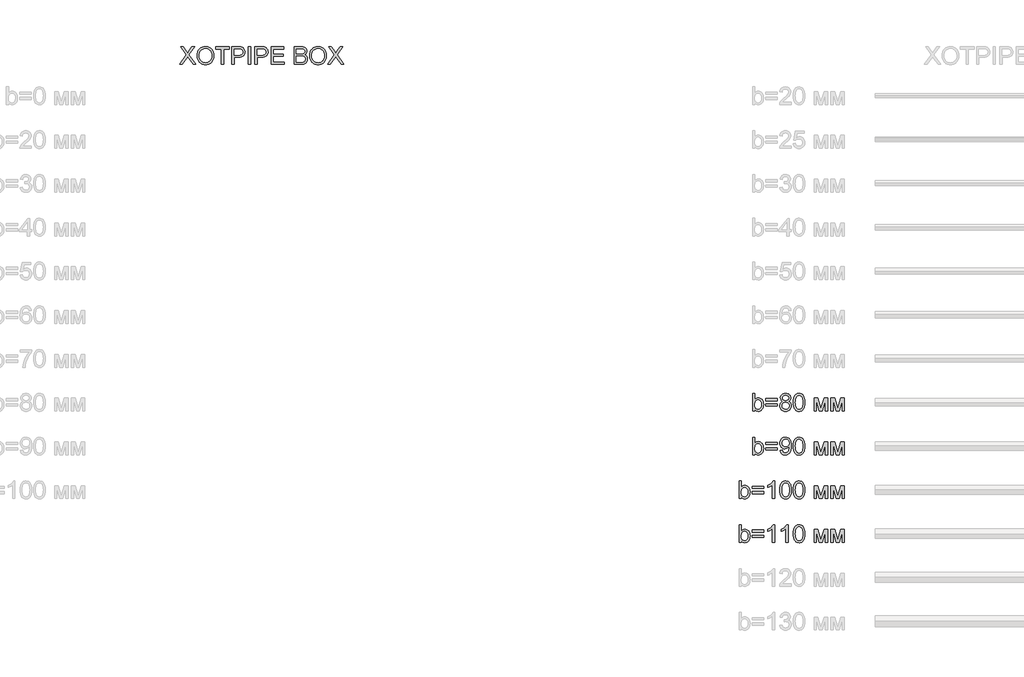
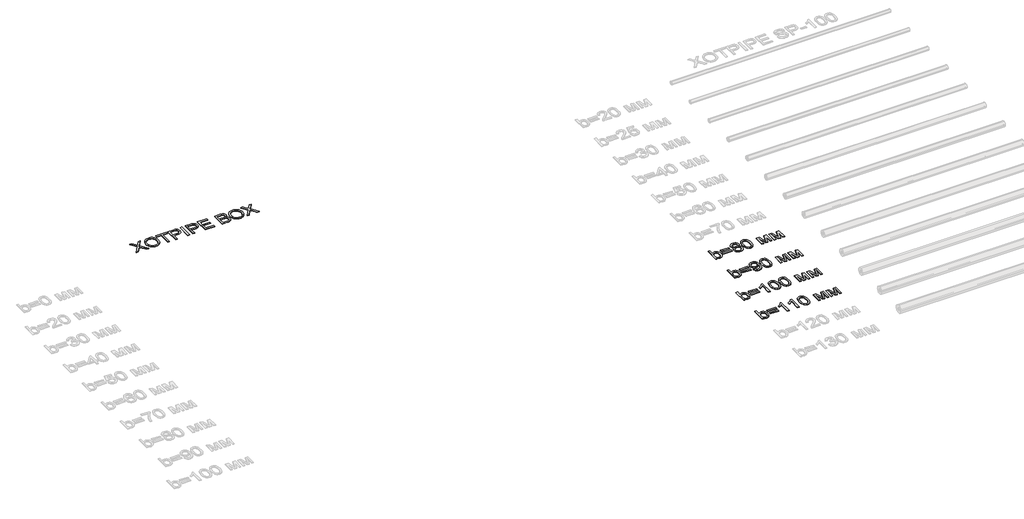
# One storey, part 72 of 86: 5 proxies.
"""IFC4 building model written with IfcOpenShell, lengths in millimetres."""

from ifc_helpers import new_model, si_unit, origin, origin_with_axes, place, context, project, spatial, polyline, outline, extrude, element, save

model = new_model("IFC4")

# Units and contexts
model_context = context("Model", 3, world=origin())
ifc_project = project(units=[si_unit("LENGTHUNIT", "METRE", prefix="MILLI")], contexts=[model_context])

# Site, building, storey
site = spatial("IfcSite", under=ifc_project)
building = spatial("IfcBuilding", under=site)
storey = spatial("IfcBuildingStorey", under=building, Name="Уровень 1", Elevation=0.0)

# Proxies
placement = place(None, origin())
element("IfcBuildingElementProxy", 1, Name="Текст модели 1", ObjectType="Текст модели 1", at=placement, inside=storey, context=model_context, shape_type="SweptSolid", body=[
    extrude(outline(polyline([(23159.6307988, 78669.2937088), (23084.2885662, 78669.2937088), (23084.2885662, 79272.0315697), (23159.6307988, 79272.0315697), (23159.6307988, 79048.5064694), (23184.4076512, 79080.3742473), (23212.3850769, 79103.1369457), (23243.563076, 79116.7945648), (23277.9416484, 79121.3471045), (23316.7531989, 79117.2452202), (23353.4310339, 79104.9395675), (23385.8782258, 79085.2026984), (23411.9978475, 79058.8071653), (23432.4704805, 79026.0104854), (23447.9767066, 78987.0701762), (23457.7439736, 78943.6049185), (23460.9997292, 78897.233393), (23457.6290105, 78843.7249568), (23447.5168541, 78796.6544555), (23430.6632602, 78756.0218892), (23407.0682288, 78721.8272577), (23378.7459136, 78694.7235517), (23347.7104688, 78675.3637617), (23313.9618943, 78663.7478877), (23277.50019, 78659.8759297), (23241.9903805, 78664.8699278), (23210.5088787, 78679.8519221), (23183.0556848, 78704.8219125), (23159.6307988, 78739.7798991), (23159.6307988, 78669.2937088)]), holes=[polyline([(23159.6307988, 78893.7017259), (23164.7811467, 78830.8674811), (23171.2190816, 78807.065516), (23180.2321905, 78788.3403224), (23198.4883345, 78765.0993774), (23219.7059286, 78748.4987024), (23243.8849727, 78738.5382973), (23271.0254669, 78735.2181623), (23293.5582391, 78737.6645776), (23314.5091188, 78745.0038234), (23333.8781058, 78757.2358997), (23351.6652003, 78774.3608066), (23366.5368299, 78796.3325588), (23377.1594225, 78823.105171), (23383.5329781, 78854.6786432), (23385.6574966, 78891.0529755), (23383.6203501, 78928.1170865), (23377.5089104, 78959.9940614), (23367.3231777, 78986.6839001), (23353.0631519, 79008.1866028), (23335.9152524, 79024.7320955), (23317.0658986, 79036.5503046), (23296.5150907, 79043.64123), (23274.2628285, 79046.0048719), (23251.7300563, 79043.5584566), (23230.7791767, 79036.2192108), (23211.4101896, 79023.9871344), (23193.6230951, 79006.8622276), (23178.7514655, 78985.1112046), (23168.1288729, 78959.00078), (23161.7553173, 78928.5309538), (23159.6307988, 78893.7017259)])]), origin_with_axes(), (0.0, 0.0, 1.0), 20.0),
    extrude(outline(polyline([(23931.8886831, 79017.7515346), (23536.3419619, 79017.7515346), (23536.3419619, 79093.0937672), (23931.8886831, 79093.0937672), (23931.8886831, 79017.7515346)])), origin_with_axes(), (0.0, 0.0, 1.0), 20.0),
    extrude(outline(polyline([(23931.8886831, 78838.8137322), (23536.3419619, 78838.8137322), (23536.3419619, 78914.1559648), (23931.8886831, 78914.1559648), (23931.8886831, 78838.8137322)])), origin_with_axes(), (0.0, 0.0, 1.0), 20.0),
    extrude(outline(polyline([(24126.4246821, 79001.2704212), (24086.0864213, 79021.136049), (24070.4284439, 79033.7176132), (24057.7779018, 79048.065011), (24041.0576651, 79081.5054844), (24035.4842529, 79120.9056461), (24038.5192794, 79151.6329897), (24047.6243588, 79179.8035535), (24062.7994911, 79205.4173374), (24084.0446763, 79228.4743415), (24110.3390419, 79247.5306288), (24140.6617153, 79261.1422626), (24175.0126966, 79269.3092429), (24213.3919858, 79272.0315697), (24251.9552159, 79269.2448636), (24286.5637146, 79260.8847452), (24317.2174819, 79246.9512147), (24343.9165177, 79227.4442719), (24365.547979, 79203.9366124), (24380.9990228, 79178.0009317), (24390.2696491, 79149.6372299), (24393.3598578, 79118.8455069), (24387.860022, 79080.7145381), (24371.3605145, 79047.8442818), (24358.9398986, 79033.593453), (24343.6773944, 79021.0808667), (24304.6267206, 79001.2704212), (24329.3897774, 78990.7352006), (24350.9982461, 78977.3764857), (24369.4521267, 78961.1942764), (24384.7514191, 78942.1885728), (24396.7581677, 78920.7824392), (24405.3344168, 78897.3989399), (24410.4801662, 78872.0380749), (24412.195416, 78844.6998441), (24408.7925075, 78807.1206983), (24398.5837822, 78772.6685494), (24381.5692399, 78741.3433976), (24357.7488807, 78713.1452426), (24328.3735034, 78689.8399182), (24294.6939067, 78673.1932579), (24256.7100907, 78663.2052618), (24214.4220554, 78659.8759297), (24172.13402, 78663.2190574), (24134.150204, 78673.2484402), (24100.4706074, 78689.9640784), (24071.09523, 78713.3659718), (24047.2748709, 78741.7618633), (24030.2603286, 78773.4594957), (24020.0516032, 78808.458869), (24016.6486948, 78846.7599833), (24018.4329224, 78875.3444143), (24023.7856055, 78901.5008242), (24032.7067438, 78925.2292128), (24045.1963376, 78946.5295804), (24060.9784752, 78965.0156506), (24079.7772451, 78980.3011475), (24101.5926474, 78992.3860711), (24126.4246821, 79001.2704212)]), holes=[polyline([(24110.8264855, 79118.6983541), (24112.4957501, 79101.4262944), (24117.5035437, 79085.8097037), (24125.8498665, 79071.848582), (24137.5347184, 79059.5429293), (24152.4109466, 79049.4997508), (24170.3313982, 79042.3260519), (24191.2960734, 79038.0218326), (24215.3049722, 79036.5870928), (24238.7206611, 79038.0126355), (24259.2300824, 79042.2892637), (24276.8332358, 79049.4169774), (24291.5301216, 79059.3957765), (24303.1184044, 79071.4439118), (24311.3957493, 79084.7796342), (24316.3621562, 79099.4029435), (24318.0176252, 79115.3138398), (24316.3069739, 79131.8455369), (24311.1750201, 79147.0068736), (24302.6217637, 79160.7978499), (24290.6472048, 79173.2184658), (24275.6192253, 79183.486972), (24257.9057072, 79190.8216193), (24237.5066506, 79195.2224076), (24214.4220554, 79196.6893371), (24191.1581177, 79195.2545973), (24170.662492, 79190.950378), (24152.9351784, 79183.7766791), (24137.9761768, 79173.7335006), (24126.0981868, 79161.6853652), (24117.6139083, 79148.4967957), (24112.5233412, 79134.167792), (24110.8264855, 79118.6983541)]), polyline([(24091.9909274, 78849.4087336), (24095.1363184, 78820.5851793), (24104.5724916, 78792.68133), (24121.9917041, 78768.345936), (24149.086213, 78750.2277477), (24181.533405, 78738.9705587), (24215.0106666, 78735.2181623), (24242.2523283, 78737.1909295), (24266.2934167, 78743.1092311), (24287.1339317, 78752.9730671), (24304.7738734, 78766.7824375), (24318.8085715, 78783.6360314), (24328.8333559, 78802.632538), (24334.8482265, 78823.7719571), (24336.8531834, 78847.0542889), (24334.7838471, 78870.7091012), (24328.5758385, 78892.2301979), (24318.2291574, 78911.617579), (24303.7438038, 78928.8712446), (24285.6256155, 78943.0347014), (24264.3804303, 78953.1514563), (24240.0082481, 78959.2215092), (24212.509069, 78961.2448602), (24185.6674789, 78959.2491003), (24161.9436888, 78953.2618209), (24141.3376985, 78943.2830218), (24123.8495082, 78929.312703), (24109.9113791, 78912.344146), (24099.9555726, 78893.3706321), (24093.9820887, 78872.3921613), (24091.9909274, 78849.4087336)])]), origin_with_axes(), (0.0, 0.0, 1.0), 20.0),
    extrude(outline(polyline([(24478.1198695, 78965.8065969), (24483.6564935, 79062.2836501), (24490.5772736, 79103.1967265), (24500.2663656, 79139.2261694), (24512.682383, 79170.6662845), (24527.7839389, 79197.8113772), (24545.5710333, 79220.6614476), (24566.0436664, 79239.2164957), (24589.2708158, 79253.5730906), (24615.3214596, 79263.8278012), (24644.1955977, 79269.9806276), (24675.8932301, 79272.0315697), (24722.3199379, 79267.1755274), (24763.8906034, 79252.6074004), (24798.6554519, 79228.8974058), (24824.664709, 79196.6157607), (24844.3096075, 79156.0383766), (24859.9813805, 79107.4411651), (24870.2452882, 79045.7289604), (24873.6665907, 78965.8065969), (24868.185149, 78869.8813667), (24861.3333468, 78829.106246), (24851.7408238, 78793.1227884), (24839.4213755, 78761.6688778), (24824.3887975, 78734.4823983), (24806.6430897, 78711.56335), (24786.1842523, 78692.9117329), (24762.9295116, 78678.458569), (24736.7960944, 78668.1348805), (24707.7840006, 78661.9406674), (24675.8932301, 78659.8759297), (24634.3961411, 78663.4627792), (24597.6079415, 78674.2233275), (24565.5286316, 78692.1575748), (24538.1582111, 78717.265521), (24511.8914367, 78762.6529621), (24493.1294549, 78819.2056218), (24481.8722659, 78886.9235001), (24478.1198695, 78965.8065969)]), holes=[polyline([(24553.4621021, 78965.9537497), (24555.6693941, 78900.456959), (24562.29127, 78847.440565), (24573.3277299, 78806.9045676), (24588.7787737, 78778.848967), (24607.467179, 78759.7604899), (24628.2157235, 78746.1258635), (24651.0244072, 78737.9450876), (24675.8932301, 78735.2181623), (24700.762053, 78737.9542847), (24723.5707367, 78746.1626517), (24744.3192812, 78759.8432634), (24763.0076866, 78778.9961198), (24778.4587304, 78807.0977057), (24789.4951902, 78847.624506), (24796.1170661, 78900.5765206), (24798.3243581, 78965.9537497), (24796.1906425, 79029.7168965), (24789.7894958, 79081.79979), (24779.120918, 79122.2024301), (24764.184909, 79150.9248169), (24745.8092033, 79170.9467945), (24724.8215355, 79185.248207), (24701.2219055, 79193.8290546), (24675.0103133, 79196.6893371), (24650.2702492, 79194.1693454), (24627.8478415, 79186.6093704), (24607.7430905, 79174.0094121), (24589.955996, 79156.3694704), (24573.9899175, 79125.0995008), (24562.5855756, 79082.9402242), (24555.7429705, 79029.8916405), (24553.4621021, 78965.9537497)])]), origin_with_axes(), (0.0, 0.0, 1.0), 20.0),
    extrude(outline(polyline([(25193.8710793, 79111.9293254), (25323.5126944, 79111.9293254), (25423.4294443, 78757.5853876), (25531.1452925, 79111.9293254), (25655.3422541, 79111.9293254), (25655.3422541, 78669.2937088), (25580.0000215, 78669.2937088), (25580.0000215, 79025.6977857), (25471.6955621, 78669.2937088), (25372.8088818, 78669.2937088), (25269.2133119, 79042.7675103), (25269.2133119, 78669.2937088), (25193.8710793, 78669.2937088), (25193.8710793, 79111.9293254)])), origin_with_axes(), (0.0, 0.0, 1.0), 20.0),
    extrude(outline(polyline([(25768.355603, 79111.9293254), (25897.9972181, 79111.9293254), (25997.913968, 78757.5853876), (26105.6298162, 79111.9293254), (26229.8267777, 79111.9293254), (26229.8267777, 78669.2937088), (26154.4845451, 78669.2937088), (26154.4845451, 79025.6977857), (26046.1800857, 78669.2937088), (25947.2934054, 78669.2937088), (25843.6978356, 79042.7675103), (25843.6978356, 78669.2937088), (25768.355603, 78669.2937088), (25768.355603, 79111.9293254)])), origin_with_axes(), (0.0, 0.0, 1.0), 20.0),
])
element("IfcBuildingElementProxy", 2, Name="Текст модели 1", ObjectType="Текст модели 1", at=placement, inside=storey, context=model_context, shape_type="SweptSolid", body=[
    extrude(outline(polyline([(23159.6307988, 77169.2937088), (23084.2885662, 77169.2937088), (23084.2885662, 77772.0315697), (23159.6307988, 77772.0315697), (23159.6307988, 77548.5064694), (23184.4076512, 77580.3742473), (23212.3850769, 77603.1369457), (23243.563076, 77616.7945648), (23277.9416484, 77621.3471045), (23316.7531989, 77617.2452202), (23353.4310339, 77604.9395675), (23385.8782258, 77585.2026984), (23411.9978475, 77558.8071653), (23432.4704805, 77526.0104854), (23447.9767066, 77487.0701762), (23457.7439736, 77443.6049185), (23460.9997292, 77397.233393), (23457.6290105, 77343.7249568), (23447.5168541, 77296.6544555), (23430.6632602, 77256.0218892), (23407.0682288, 77221.8272577), (23378.7459136, 77194.7235517), (23347.7104688, 77175.3637617), (23313.9618943, 77163.7478877), (23277.50019, 77159.8759297), (23241.9903805, 77164.8699278), (23210.5088787, 77179.8519221), (23183.0556848, 77204.8219125), (23159.6307988, 77239.7798991), (23159.6307988, 77169.2937088)]), holes=[polyline([(23159.6307988, 77393.7017259), (23164.7811467, 77330.8674811), (23171.2190816, 77307.065516), (23180.2321905, 77288.3403224), (23198.4883345, 77265.0993774), (23219.7059286, 77248.4987024), (23243.8849727, 77238.5382973), (23271.0254669, 77235.2181623), (23293.5582391, 77237.6645776), (23314.5091188, 77245.0038234), (23333.8781058, 77257.2358997), (23351.6652003, 77274.3608066), (23366.5368299, 77296.3325588), (23377.1594225, 77323.105171), (23383.5329781, 77354.6786432), (23385.6574966, 77391.0529755), (23383.6203501, 77428.1170865), (23377.5089104, 77459.9940614), (23367.3231777, 77486.6839001), (23353.0631519, 77508.1866028), (23335.9152524, 77524.7320955), (23317.0658986, 77536.5503046), (23296.5150907, 77543.64123), (23274.2628285, 77546.0048719), (23251.7300563, 77543.5584566), (23230.7791767, 77536.2192108), (23211.4101896, 77523.9871344), (23193.6230951, 77506.8622276), (23178.7514655, 77485.1112046), (23168.1288729, 77459.00078), (23161.7553173, 77428.5309538), (23159.6307988, 77393.7017259)])]), origin_with_axes(), (0.0, 0.0, 1.0), 20.0),
    extrude(outline(polyline([(23931.8886831, 77517.7515346), (23536.3419619, 77517.7515346), (23536.3419619, 77593.0937672), (23931.8886831, 77593.0937672), (23931.8886831, 77517.7515346)])), origin_with_axes(), (0.0, 0.0, 1.0), 20.0),
    extrude(outline(polyline([(23931.8886831, 77338.8137322), (23536.3419619, 77338.8137322), (23536.3419619, 77414.1559648), (23931.8886831, 77414.1559648), (23931.8886831, 77338.8137322)])), origin_with_axes(), (0.0, 0.0, 1.0), 20.0),
    extrude(outline(polyline([(24026.0664738, 77319.978174), (24101.4087064, 77329.3959531), (24114.2845763, 77286.6296712), (24123.7575377, 77270.3646884), (24135.25385, 77257.5118112), (24148.6447546, 77247.7583398), (24163.8014928, 77240.7915746), (24199.41247, 77235.2181623), (24231.3630212, 77238.8050118), (24260.4073048, 77249.5655601), (24284.5403636, 77266.322585), (24301.757241, 77287.898864), (24314.7986577, 77316.2625659), (24326.4053347, 77353.3818592), (24334.572315, 77395.9825942), (24337.2946418, 77440.7906212), (24336.8531834, 77455.505901), (24310.7519558, 77423.6473203), (24276.5941126, 77398.4106154), (24236.844463, 77381.9662902), (24193.9678164, 77376.4848485), (24158.1774968, 77379.8325746), (24125.2658538, 77389.8757531), (24095.2328875, 77406.6143839), (24068.0785977, 77430.048467), (24045.5780152, 77458.9547948), (24029.5061705, 77492.1101596), (24019.8630637, 77529.5145614), (24016.6486948, 77571.1680003), (24020.0194135, 77614.2101938), (24030.1315699, 77652.8378033), (24046.9851638, 77687.0508288), (24070.5801953, 77716.8492704), (24099.2519983, 77740.9915264), (24131.3359068, 77758.2359949), (24166.8319208, 77768.582676), (24205.7400403, 77772.0315697), (24234.4670256, 77770.063401), (24261.934015, 77764.158895), (24288.1410087, 77754.3180516), (24313.0880065, 77740.5408709), (24335.9426754, 77723.1216584), (24355.8726825, 77702.3547198), (24372.8780277, 77678.240055), (24386.9587111, 77650.7776641), (24397.9997695, 77618.3856544), (24405.8862398, 77579.4821334), (24410.6181219, 77534.0671011), (24412.195416, 77482.1405575), (24410.6227204, 77427.6066502), (24405.9046339, 77378.9312638), (24398.0411562, 77336.114398), (24387.0322875, 77299.1560531), (24372.9194145, 77267.154918), (24355.7439238, 77239.209682), (24335.5058156, 77215.3203449), (24312.2050897, 77195.4869069), (24286.3107957, 77179.9071044), (24258.2919833, 77168.778674), (24228.1486523, 77162.1016158), (24195.8808028, 77159.8759297), (24162.0448563, 77162.5016875), (24131.4646655, 77170.3789607), (24104.1402303, 77183.5077494), (24080.0715507, 77201.8880536), (24059.8656321, 77225.0232325), (24044.1294798, 77252.4166456), (24032.8630937, 77284.0682928), (24026.0664738, 77319.978174)]), holes=[polyline([(24336.8531834, 77572.9338339), (24334.8206353, 77599.9363724), (24328.7229913, 77623.9958548), (24318.5602511, 77645.1122814), (24304.332415, 77663.2856519), (24286.7384586, 77677.8997642), (24266.4773577, 77688.3384158), (24243.5491123, 77694.6016068), (24217.9537225, 77696.6893371), (24191.5397953, 77694.4406584), (24167.6274656, 77687.6946223), (24146.2167335, 77676.4512288), (24127.3075989, 77660.710478), (24111.8565551, 77641.3920747), (24100.8200953, 77619.415724), (24094.1982193, 77594.7814259), (24091.9909274, 77567.4891804), (24094.0786577, 77543.0112321), (24100.3418487, 77520.9337139), (24110.7805003, 77501.2566257), (24125.3946125, 77483.9799675), (24143.5771801, 77469.9130797), (24164.7211978, 77459.8653027), (24188.8266656, 77453.8366365), (24215.8935833, 77451.8270811), (24241.1348867, 77453.8366365), (24264.0309424, 77459.8653027), (24284.5817504, 77469.9130797), (24302.7873106, 77483.9799675), (24317.6911299, 77501.5969165), (24328.3367152, 77522.2948773), (24334.7240663, 77546.0738497), (24336.8531834, 77572.9338339)])]), origin_with_axes(), (0.0, 0.0, 1.0), 20.0),
    extrude(outline(polyline([(24478.1198695, 77465.8065969), (24483.6564935, 77562.2836501), (24490.5772736, 77603.1967265), (24500.2663656, 77639.2261694), (24512.682383, 77670.6662845), (24527.7839389, 77697.8113772), (24545.5710333, 77720.6614476), (24566.0436664, 77739.2164957), (24589.2708158, 77753.5730906), (24615.3214596, 77763.8278012), (24644.1955977, 77769.9806276), (24675.8932301, 77772.0315697), (24722.3199379, 77767.1755274), (24763.8906034, 77752.6074004), (24798.6554519, 77728.8974058), (24824.664709, 77696.6157607), (24844.3096075, 77656.0383766), (24859.9813805, 77607.4411651), (24870.2452882, 77545.7289604), (24873.6665907, 77465.8065969), (24868.185149, 77369.8813667), (24861.3333468, 77329.106246), (24851.7408238, 77293.1227884), (24839.4213755, 77261.6688778), (24824.3887975, 77234.4823983), (24806.6430897, 77211.56335), (24786.1842523, 77192.9117329), (24762.9295116, 77178.458569), (24736.7960944, 77168.1348805), (24707.7840006, 77161.9406674), (24675.8932301, 77159.8759297), (24634.3961411, 77163.4627792), (24597.6079415, 77174.2233275), (24565.5286316, 77192.1575748), (24538.1582111, 77217.265521), (24511.8914367, 77262.6529621), (24493.1294549, 77319.2056218), (24481.8722659, 77386.9235001), (24478.1198695, 77465.8065969)]), holes=[polyline([(24553.4621021, 77465.9537497), (24555.6693941, 77400.456959), (24562.29127, 77347.440565), (24573.3277299, 77306.9045676), (24588.7787737, 77278.848967), (24607.467179, 77259.7604899), (24628.2157235, 77246.1258635), (24651.0244072, 77237.9450876), (24675.8932301, 77235.2181623), (24700.762053, 77237.9542847), (24723.5707367, 77246.1626517), (24744.3192812, 77259.8432634), (24763.0076866, 77278.9961198), (24778.4587304, 77307.0977057), (24789.4951902, 77347.624506), (24796.1170661, 77400.5765206), (24798.3243581, 77465.9537497), (24796.1906425, 77529.7168965), (24789.7894958, 77581.79979), (24779.120918, 77622.2024301), (24764.184909, 77650.9248169), (24745.8092033, 77670.9467945), (24724.8215355, 77685.248207), (24701.2219055, 77693.8290546), (24675.0103133, 77696.6893371), (24650.2702492, 77694.1693454), (24627.8478415, 77686.6093704), (24607.7430905, 77674.0094121), (24589.955996, 77656.3694704), (24573.9899175, 77625.0995008), (24562.5855756, 77582.9402242), (24555.7429705, 77529.8916405), (24553.4621021, 77465.9537497)])]), origin_with_axes(), (0.0, 0.0, 1.0), 20.0),
    extrude(outline(polyline([(25193.8710793, 77611.9293254), (25323.5126944, 77611.9293254), (25423.4294443, 77257.5853876), (25531.1452925, 77611.9293254), (25655.3422541, 77611.9293254), (25655.3422541, 77169.2937088), (25580.0000215, 77169.2937088), (25580.0000215, 77525.6977857), (25471.6955621, 77169.2937088), (25372.8088818, 77169.2937088), (25269.2133119, 77542.7675103), (25269.2133119, 77169.2937088), (25193.8710793, 77169.2937088), (25193.8710793, 77611.9293254)])), origin_with_axes(), (0.0, 0.0, 1.0), 20.0),
    extrude(outline(polyline([(25768.355603, 77611.9293254), (25897.9972181, 77611.9293254), (25997.913968, 77257.5853876), (26105.6298162, 77611.9293254), (26229.8267777, 77611.9293254), (26229.8267777, 77169.2937088), (26154.4845451, 77169.2937088), (26154.4845451, 77525.6977857), (26046.1800857, 77169.2937088), (25947.2934054, 77169.2937088), (25843.6978356, 77542.7675103), (25843.6978356, 77169.2937088), (25768.355603, 77169.2937088), (25768.355603, 77611.9293254)])), origin_with_axes(), (0.0, 0.0, 1.0), 20.0),
])
element("IfcBuildingElementProxy", 3, Name="Текст модели 1", ObjectType="Текст модели 1", at=placement, inside=storey, context=model_context, shape_type="SweptSolid", body=[
    extrude(outline(polyline([(22698.159624, 75669.2937088), (22622.8173914, 75669.2937088), (22622.8173914, 76272.0315697), (22698.159624, 76272.0315697), (22698.159624, 76048.5064694), (22722.9364764, 76080.3742473), (22750.9139022, 76103.1369457), (22782.0919012, 76116.7945648), (22816.4704737, 76121.3471045), (22855.2820242, 76117.2452202), (22891.9598591, 76104.9395675), (22924.4070511, 76085.2026984), (22950.5266727, 76058.8071653), (22970.9993058, 76026.0104854), (22986.5055319, 75987.0701762), (22996.2727988, 75943.6049185), (22999.5285545, 75897.233393), (22996.1578357, 75843.7249568), (22986.0456794, 75796.6544555), (22969.1920855, 75756.0218892), (22945.597054, 75721.8272577), (22917.2747389, 75694.7235517), (22886.2392941, 75675.3637617), (22852.4907195, 75663.7478877), (22816.0290153, 75659.8759297), (22780.5192057, 75664.8699278), (22749.037704, 75679.8519221), (22721.5845101, 75704.8219125), (22698.159624, 75739.7798991), (22698.159624, 75669.2937088)]), holes=[polyline([(22698.159624, 75893.7017259), (22703.309972, 75830.8674811), (22709.7479069, 75807.065516), (22718.7610158, 75788.3403224), (22737.0171598, 75765.0993774), (22758.2347539, 75748.4987024), (22782.413798, 75738.5382973), (22809.5542922, 75735.2181623), (22832.0870644, 75737.6645776), (22853.037944, 75745.0038234), (22872.4069311, 75757.2358997), (22890.1940255, 75774.3608066), (22905.0656552, 75796.3325588), (22915.6882478, 75823.105171), (22922.0618034, 75854.6786432), (22924.1863219, 75891.0529755), (22922.1491753, 75928.1170865), (22916.0377357, 75959.9940614), (22905.8520029, 75986.6839001), (22891.5919771, 76008.1866028), (22874.4440776, 76024.7320955), (22855.5947239, 76036.5503046), (22835.0439159, 76043.64123), (22812.7916537, 76046.0048719), (22790.2588815, 76043.5584566), (22769.3080019, 76036.2192108), (22749.9390149, 76023.9871344), (22732.1519204, 76006.8622276), (22717.2802907, 75985.1112046), (22706.6576981, 75959.00078), (22700.2841426, 75928.5309538), (22698.159624, 75893.7017259)])]), origin_with_axes(), (0.0, 0.0, 1.0), 20.0),
    extrude(outline(polyline([(23470.4175083, 76017.7515346), (23074.8707871, 76017.7515346), (23074.8707871, 76093.0937672), (23470.4175083, 76093.0937672), (23470.4175083, 76017.7515346)])), origin_with_axes(), (0.0, 0.0, 1.0), 20.0),
    extrude(outline(polyline([(23470.4175083, 75838.8137322), (23074.8707871, 75838.8137322), (23074.8707871, 75914.1559648), (23470.4175083, 75914.1559648), (23470.4175083, 75838.8137322)])), origin_with_axes(), (0.0, 0.0, 1.0), 20.0),
    extrude(outline(polyline([(23837.7108923, 75669.2937088), (23762.3686597, 75669.2937088), (23762.3686597, 76139.0054402), (23730.9147491, 76113.5664003), (23690.9995526, 76088.1641485), (23649.0977934, 76065.9624701), (23611.6841945, 76050.1251502), (23611.6841945, 76121.3471045), (23670.8580134, 76153.5367791), (23722.1223694, 76191.8332947), (23762.5342066, 76232.5578316), (23789.1504689, 76272.0315697), (23837.7108923, 76272.0315697), (23837.7108923, 75669.2937088)])), origin_with_axes(), (0.0, 0.0, 1.0), 20.0),
    extrude(outline(polyline([(24016.6486948, 75965.8065969), (24022.1853188, 76062.2836501), (24029.1060988, 76103.1967265), (24038.7951909, 76139.2261694), (24051.2112082, 76170.6662845), (24066.3127641, 76197.8113772), (24084.0998586, 76220.6614476), (24104.5724916, 76239.2164957), (24127.7996411, 76253.5730906), (24153.8502849, 76263.8278012), (24182.724423, 76269.9806276), (24214.4220554, 76272.0315697), (24260.8487632, 76267.1755274), (24302.4194286, 76252.6074004), (24337.1842772, 76228.8974058), (24363.1935342, 76196.6157607), (24382.8384328, 76156.0383766), (24398.5102058, 76107.4411651), (24408.7741134, 76045.7289604), (24412.195416, 75965.8065969), (24406.7139742, 75869.8813667), (24399.8621721, 75829.106246), (24390.2696491, 75793.1227884), (24377.9502007, 75761.6688778), (24362.9176227, 75734.4823983), (24345.171915, 75711.56335), (24324.7130775, 75692.9117329), (24301.4583369, 75678.458569), (24275.3249197, 75668.1348805), (24246.3128258, 75661.9406674), (24214.4220554, 75659.8759297), (24172.9249663, 75663.4627792), (24136.1367668, 75674.2233275), (24104.0574568, 75692.1575748), (24076.6870364, 75717.265521), (24050.4202619, 75762.6529621), (24031.6582802, 75819.2056218), (24020.4010911, 75886.9235001), (24016.6486948, 75965.8065969)]), holes=[polyline([(24091.9909274, 75965.9537497), (24094.1982193, 75900.456959), (24100.8200953, 75847.440565), (24111.8565551, 75806.9045676), (24127.3075989, 75778.848967), (24145.9960043, 75759.7604899), (24166.7445488, 75746.1258635), (24189.5532325, 75737.9450876), (24214.4220554, 75735.2181623), (24239.2908782, 75737.9542847), (24262.0995619, 75746.1626517), (24282.8481065, 75759.8432634), (24301.5365118, 75778.9961198), (24316.9875556, 75807.0977057), (24328.0240155, 75847.624506), (24334.6458914, 75900.5765206), (24336.8531834, 75965.9537497), (24334.7194678, 76029.7168965), (24328.3183211, 76081.79979), (24317.6497432, 76122.2024301), (24302.7137342, 76150.9248169), (24284.3380285, 76170.9467945), (24263.3503607, 76185.248207), (24239.7507307, 76193.8290546), (24213.5391386, 76196.6893371), (24188.7990744, 76194.1693454), (24166.3766668, 76186.6093704), (24146.2719158, 76174.0094121), (24128.4848213, 76156.3694704), (24112.5187427, 76125.0995008), (24101.1144009, 76082.9402242), (24094.2717957, 76029.8916405), (24091.9909274, 75965.9537497)])]), origin_with_axes(), (0.0, 0.0, 1.0), 20.0),
    extrude(outline(polyline([(24478.1198695, 75965.8065969), (24483.6564935, 76062.2836501), (24490.5772736, 76103.1967265), (24500.2663656, 76139.2261694), (24512.682383, 76170.6662845), (24527.7839389, 76197.8113772), (24545.5710333, 76220.6614476), (24566.0436664, 76239.2164957), (24589.2708158, 76253.5730906), (24615.3214596, 76263.8278012), (24644.1955977, 76269.9806276), (24675.8932301, 76272.0315697), (24722.3199379, 76267.1755274), (24763.8906034, 76252.6074004), (24798.6554519, 76228.8974058), (24824.664709, 76196.6157607), (24844.3096075, 76156.0383766), (24859.9813805, 76107.4411651), (24870.2452882, 76045.7289604), (24873.6665907, 75965.8065969), (24868.185149, 75869.8813667), (24861.3333468, 75829.106246), (24851.7408238, 75793.1227884), (24839.4213755, 75761.6688778), (24824.3887975, 75734.4823983), (24806.6430897, 75711.56335), (24786.1842523, 75692.9117329), (24762.9295116, 75678.458569), (24736.7960944, 75668.1348805), (24707.7840006, 75661.9406674), (24675.8932301, 75659.8759297), (24634.3961411, 75663.4627792), (24597.6079415, 75674.2233275), (24565.5286316, 75692.1575748), (24538.1582111, 75717.265521), (24511.8914367, 75762.6529621), (24493.1294549, 75819.2056218), (24481.8722659, 75886.9235001), (24478.1198695, 75965.8065969)]), holes=[polyline([(24553.4621021, 75965.9537497), (24555.6693941, 75900.456959), (24562.29127, 75847.440565), (24573.3277299, 75806.9045676), (24588.7787737, 75778.848967), (24607.467179, 75759.7604899), (24628.2157235, 75746.1258635), (24651.0244072, 75737.9450876), (24675.8932301, 75735.2181623), (24700.762053, 75737.9542847), (24723.5707367, 75746.1626517), (24744.3192812, 75759.8432634), (24763.0076866, 75778.9961198), (24778.4587304, 75807.0977057), (24789.4951902, 75847.624506), (24796.1170661, 75900.5765206), (24798.3243581, 75965.9537497), (24796.1906425, 76029.7168965), (24789.7894958, 76081.79979), (24779.120918, 76122.2024301), (24764.184909, 76150.9248169), (24745.8092033, 76170.9467945), (24724.8215355, 76185.248207), (24701.2219055, 76193.8290546), (24675.0103133, 76196.6893371), (24650.2702492, 76194.1693454), (24627.8478415, 76186.6093704), (24607.7430905, 76174.0094121), (24589.955996, 76156.3694704), (24573.9899175, 76125.0995008), (24562.5855756, 76082.9402242), (24555.7429705, 76029.8916405), (24553.4621021, 75965.9537497)])]), origin_with_axes(), (0.0, 0.0, 1.0), 20.0),
    extrude(outline(polyline([(25193.8710793, 76111.9293254), (25323.5126944, 76111.9293254), (25423.4294443, 75757.5853876), (25531.1452925, 76111.9293254), (25655.3422541, 76111.9293254), (25655.3422541, 75669.2937088), (25580.0000215, 75669.2937088), (25580.0000215, 76025.6977857), (25471.6955621, 75669.2937088), (25372.8088818, 75669.2937088), (25269.2133119, 76042.7675103), (25269.2133119, 75669.2937088), (25193.8710793, 75669.2937088), (25193.8710793, 76111.9293254)])), origin_with_axes(), (0.0, 0.0, 1.0), 20.0),
    extrude(outline(polyline([(25768.355603, 76111.9293254), (25897.9972181, 76111.9293254), (25997.913968, 75757.5853876), (26105.6298162, 76111.9293254), (26229.8267777, 76111.9293254), (26229.8267777, 75669.2937088), (26154.4845451, 75669.2937088), (26154.4845451, 76025.6977857), (26046.1800857, 75669.2937088), (25947.2934054, 75669.2937088), (25843.6978356, 76042.7675103), (25843.6978356, 75669.2937088), (25768.355603, 75669.2937088), (25768.355603, 76111.9293254)])), origin_with_axes(), (0.0, 0.0, 1.0), 20.0),
])
element("IfcBuildingElementProxy", 4, Name="Текст модели 1", ObjectType="Текст модели 1", at=placement, inside=storey, context=model_context, shape_type="SweptSolid", body=[
    extrude(outline(polyline([(22698.159624, 74169.2937088), (22622.8173914, 74169.2937088), (22622.8173914, 74772.0315697), (22698.159624, 74772.0315697), (22698.159624, 74548.5064694), (22722.9364764, 74580.3742473), (22750.9139022, 74603.1369457), (22782.0919012, 74616.7945648), (22816.4704737, 74621.3471045), (22855.2820242, 74617.2452202), (22891.9598591, 74604.9395675), (22924.4070511, 74585.2026984), (22950.5266727, 74558.8071653), (22970.9993058, 74526.0104854), (22986.5055319, 74487.0701762), (22996.2727988, 74443.6049185), (22999.5285545, 74397.233393), (22996.1578357, 74343.7249568), (22986.0456794, 74296.6544555), (22969.1920855, 74256.0218892), (22945.597054, 74221.8272577), (22917.2747389, 74194.7235517), (22886.2392941, 74175.3637617), (22852.4907195, 74163.7478877), (22816.0290153, 74159.8759297), (22780.5192057, 74164.8699278), (22749.037704, 74179.8519221), (22721.5845101, 74204.8219125), (22698.159624, 74239.7798991), (22698.159624, 74169.2937088)]), holes=[polyline([(22698.159624, 74393.7017259), (22703.309972, 74330.8674811), (22709.7479069, 74307.065516), (22718.7610158, 74288.3403224), (22737.0171598, 74265.0993774), (22758.2347539, 74248.4987024), (22782.413798, 74238.5382973), (22809.5542922, 74235.2181623), (22832.0870644, 74237.6645776), (22853.037944, 74245.0038234), (22872.4069311, 74257.2358997), (22890.1940255, 74274.3608066), (22905.0656552, 74296.3325588), (22915.6882478, 74323.105171), (22922.0618034, 74354.6786432), (22924.1863219, 74391.0529755), (22922.1491753, 74428.1170865), (22916.0377357, 74459.9940614), (22905.8520029, 74486.6839001), (22891.5919771, 74508.1866028), (22874.4440776, 74524.7320955), (22855.5947239, 74536.5503046), (22835.0439159, 74543.64123), (22812.7916537, 74546.0048719), (22790.2588815, 74543.5584566), (22769.3080019, 74536.2192108), (22749.9390149, 74523.9871344), (22732.1519204, 74506.8622276), (22717.2802907, 74485.1112046), (22706.6576981, 74459.00078), (22700.2841426, 74428.5309538), (22698.159624, 74393.7017259)])]), origin_with_axes(), (0.0, 0.0, 1.0), 20.0),
    extrude(outline(polyline([(23470.4175083, 74517.7515346), (23074.8707871, 74517.7515346), (23074.8707871, 74593.0937672), (23470.4175083, 74593.0937672), (23470.4175083, 74517.7515346)])), origin_with_axes(), (0.0, 0.0, 1.0), 20.0),
    extrude(outline(polyline([(23470.4175083, 74338.8137322), (23074.8707871, 74338.8137322), (23074.8707871, 74414.1559648), (23470.4175083, 74414.1559648), (23470.4175083, 74338.8137322)])), origin_with_axes(), (0.0, 0.0, 1.0), 20.0),
    extrude(outline(polyline([(23837.7108923, 74169.2937088), (23762.3686597, 74169.2937088), (23762.3686597, 74639.0054402), (23730.9147491, 74613.5664003), (23690.9995526, 74588.1641485), (23649.0977934, 74565.9624701), (23611.6841945, 74550.1251502), (23611.6841945, 74621.3471045), (23670.8580134, 74653.5367791), (23722.1223694, 74691.8332947), (23762.5342066, 74732.5578316), (23789.1504689, 74772.0315697), (23837.7108923, 74772.0315697), (23837.7108923, 74169.2937088)])), origin_with_axes(), (0.0, 0.0, 1.0), 20.0),
    extrude(outline(polyline([(24299.1820671, 74169.2937088), (24223.8398344, 74169.2937088), (24223.8398344, 74639.0054402), (24192.3859239, 74613.5664003), (24152.4707274, 74588.1641485), (24110.5689681, 74565.9624701), (24073.1553692, 74550.1251502), (24073.1553692, 74621.3471045), (24132.3291881, 74653.5367791), (24183.5935442, 74691.8332947), (24224.0053813, 74732.5578316), (24250.6216437, 74772.0315697), (24299.1820671, 74772.0315697), (24299.1820671, 74169.2937088)])), origin_with_axes(), (0.0, 0.0, 1.0), 20.0),
    extrude(outline(polyline([(24478.1198695, 74465.8065969), (24483.6564935, 74562.2836501), (24490.5772736, 74603.1967265), (24500.2663656, 74639.2261694), (24512.682383, 74670.6662845), (24527.7839389, 74697.8113772), (24545.5710333, 74720.6614476), (24566.0436664, 74739.2164957), (24589.2708158, 74753.5730906), (24615.3214596, 74763.8278012), (24644.1955977, 74769.9806276), (24675.8932301, 74772.0315697), (24722.3199379, 74767.1755274), (24763.8906034, 74752.6074004), (24798.6554519, 74728.8974058), (24824.664709, 74696.6157607), (24844.3096075, 74656.0383766), (24859.9813805, 74607.4411651), (24870.2452882, 74545.7289604), (24873.6665907, 74465.8065969), (24868.185149, 74369.8813667), (24861.3333468, 74329.106246), (24851.7408238, 74293.1227884), (24839.4213755, 74261.6688778), (24824.3887975, 74234.4823983), (24806.6430897, 74211.56335), (24786.1842523, 74192.9117329), (24762.9295116, 74178.458569), (24736.7960944, 74168.1348805), (24707.7840006, 74161.9406674), (24675.8932301, 74159.8759297), (24634.3961411, 74163.4627792), (24597.6079415, 74174.2233275), (24565.5286316, 74192.1575748), (24538.1582111, 74217.265521), (24511.8914367, 74262.6529621), (24493.1294549, 74319.2056218), (24481.8722659, 74386.9235001), (24478.1198695, 74465.8065969)]), holes=[polyline([(24553.4621021, 74465.9537497), (24555.6693941, 74400.456959), (24562.29127, 74347.440565), (24573.3277299, 74306.9045676), (24588.7787737, 74278.848967), (24607.467179, 74259.7604899), (24628.2157235, 74246.1258635), (24651.0244072, 74237.9450876), (24675.8932301, 74235.2181623), (24700.762053, 74237.9542847), (24723.5707367, 74246.1626517), (24744.3192812, 74259.8432634), (24763.0076866, 74278.9961198), (24778.4587304, 74307.0977057), (24789.4951902, 74347.624506), (24796.1170661, 74400.5765206), (24798.3243581, 74465.9537497), (24796.1906425, 74529.7168965), (24789.7894958, 74581.79979), (24779.120918, 74622.2024301), (24764.184909, 74650.9248169), (24745.8092033, 74670.9467945), (24724.8215355, 74685.248207), (24701.2219055, 74693.8290546), (24675.0103133, 74696.6893371), (24650.2702492, 74694.1693454), (24627.8478415, 74686.6093704), (24607.7430905, 74674.0094121), (24589.955996, 74656.3694704), (24573.9899175, 74625.0995008), (24562.5855756, 74582.9402242), (24555.7429705, 74529.8916405), (24553.4621021, 74465.9537497)])]), origin_with_axes(), (0.0, 0.0, 1.0), 20.0),
    extrude(outline(polyline([(25193.8710793, 74611.9293254), (25323.5126944, 74611.9293254), (25423.4294443, 74257.5853876), (25531.1452925, 74611.9293254), (25655.3422541, 74611.9293254), (25655.3422541, 74169.2937088), (25580.0000215, 74169.2937088), (25580.0000215, 74525.6977857), (25471.6955621, 74169.2937088), (25372.8088818, 74169.2937088), (25269.2133119, 74542.7675103), (25269.2133119, 74169.2937088), (25193.8710793, 74169.2937088), (25193.8710793, 74611.9293254)])), origin_with_axes(), (0.0, 0.0, 1.0), 20.0),
    extrude(outline(polyline([(25768.355603, 74611.9293254), (25897.9972181, 74611.9293254), (25997.913968, 74257.5853876), (26105.6298162, 74611.9293254), (26229.8267777, 74611.9293254), (26229.8267777, 74169.2937088), (26154.4845451, 74169.2937088), (26154.4845451, 74525.6977857), (26046.1800857, 74169.2937088), (25947.2934054, 74169.2937088), (25843.6978356, 74542.7675103), (25843.6978356, 74169.2937088), (25768.355603, 74169.2937088), (25768.355603, 74611.9293254)])), origin_with_axes(), (0.0, 0.0, 1.0), 20.0),
])
element("IfcBuildingElementProxy", 5, Name="Текст модели 1", ObjectType="Текст модели 1", at=placement, inside=storey, context=model_context, shape_type="SweptSolid", body=[
    extrude(outline(polyline([(3470.4175083, 90543.2937088), (3702.7717765, 90871.7387541), (3508.0886246, 91146.0315697), (3598.4404426, 91146.0315697), (3708.0692772, 90991.6682845), (3734.2256871, 90952.5624284), (3745.0046295, 90931.4827901), (3788.2675522, 90992.6983541), (3896.7191643, 91146.0315697), (3988.3953575, 91146.0315697), (3793.7122057, 90870.8558373), (4026.0664738, 90543.2937088), (3935.7146558, 90543.2937088), (3780.9099122, 90761.6684611), (3748.6834495, 90806.9915229), (3713.2196251, 90757.2538772), (3562.0937015, 90543.2937088), (3470.4175083, 90543.2937088)])), origin_with_axes(), (0.0, 0.0, 1.0), 20.0),
    extrude(outline(polyline([(4073.1553692, 90836.7163882), (4078.1769585, 90907.4141106), (4093.2417262, 90970.000035), (4118.3496723, 91024.4741614), (4134.6698373, 91048.6693004), (4153.500797, 91070.8364899), (4196.5889756, 91107.8546156), (4245.508084, 91134.2961341), (4300.2581219, 91150.1610451), (4360.8390894, 91155.4493488), (4401.3888824, 91152.9661453), (4439.8969302, 91145.5165349), (4476.363233, 91133.1005176), (4510.7877907, 91115.7180933), (4542.2049131, 91093.8934939), (4569.6489099, 91068.1509513), (4593.1197812, 91038.4904655), (4612.6175269, 91004.9120363), (4627.939812, 90968.1790191), (4638.8843014, 90929.0547689), (4645.450995, 90887.5392858), (4647.6398929, 90843.6325697), (4645.3360319, 90799.1464394), (4638.4244489, 90757.0699362), (4626.9051439, 90717.4030601), (4610.778117, 90680.145811), (4590.4250456, 90646.2822733), (4566.2276074, 90616.7965314), (4538.1858023, 90591.6885853), (4506.2996303, 90570.9584348), (4471.8244889, 90554.7348388), (4436.0157752, 90543.146556), (4398.8734892, 90536.1935863), (4360.3976311, 90533.8759297), (4319.1396653, 90536.4373081), (4280.1257797, 90544.1214433), (4243.3559743, 90556.9283352), (4208.830249, 90574.857984), (4177.4499148, 90597.2160122), (4150.1162826, 90623.3080428), (4126.8293523, 90653.1340755), (4107.589124, 90686.6941105), (4092.5243563, 90722.64078), (4081.7638079, 90759.6267161), (4075.3074789, 90797.6519188), (4073.1553692, 90836.7163882)]), holes=[polyline([(4148.4976018, 90835.9806242), (4152.2637938, 90786.0314463), (4163.5623695, 90741.6924688), (4182.3933292, 90702.9636918), (4208.7566726, 90669.8451151), (4240.8037929, 90643.3208233), (4276.686083, 90624.3749005), (4316.403543, 90613.0073469), (4359.9561727, 90609.2181623), (4404.2537634, 90613.0441351), (4444.4402728, 90624.5220533), (4480.515701, 90643.6519171), (4512.4800479, 90670.4337263), (4538.6502533, 90704.2512787), (4557.3432572, 90744.488372), (4568.5590595, 90791.145006), (4572.2976603, 90844.2211809), (4570.6973736, 90878.7009209), (4565.8965136, 90910.9181866), (4557.8950802, 90940.872978), (4546.6930734, 90968.5652952), (4532.4146535, 90993.6318547), (4515.1839805, 91015.7093729), (4495.0010546, 91034.7978499), (4471.8658756, 91050.8972857), (4446.4958135, 91063.6765866), (4419.6082382, 91072.8046586), (4391.2031496, 91078.2815018), (4361.2805478, 91080.1071162), (4319.2408328, 91076.5892446), (4280.2361443, 91066.0356298), (4244.2664822, 91048.446272), (4211.3318466, 91023.8211709), (4183.8418645, 90990.9739073), (4164.206163, 90948.7180616), (4152.4247421, 90897.0536339), (4148.4976018, 90835.9806242)])]), origin_with_axes(), (0.0, 0.0, 1.0), 20.0),
    extrude(outline(polyline([(4901.919928, 90543.2937088), (4901.919928, 91070.6893371), (4704.1465673, 91070.6893371), (4704.1465673, 91146.0315697), (5175.0355212, 91146.0315697), (5175.0355212, 91070.6893371), (4977.2621606, 91070.6893371), (4977.2621606, 90543.2937088), (4901.919928, 90543.2937088)])), origin_with_axes(), (0.0, 0.0, 1.0), 20.0),
    extrude(outline(polyline([(5259.7955329, 90543.2937088), (5259.7955329, 91146.0315697), (5483.1734803, 91146.0315697), (5535.1919944, 91144.5968299), (5573.2309928, 91140.2926106), (5613.3853125, 91129.5688504), (5646.4395098, 91112.1128497), (5673.0557721, 91087.1336623), (5693.8962872, 91053.8403417), (5707.3607682, 91014.5689387), (5711.8489285, 90971.655504), (5708.8185006, 90934.6557723), (5699.7272168, 90900.6174907), (5684.5750771, 90869.5406592), (5663.3620816, 90841.4252777), (5634.2396231, 90818.1199533), (5595.3590948, 90801.473293), (5546.7204965, 90791.4852968), (5488.3238283, 90788.1559648), (5335.1377655, 90788.1559648), (5335.1377655, 90543.2937088), (5259.7955329, 90543.2937088)]), holes=[polyline([(5335.1377655, 90863.4981974), (5492.7384122, 90863.4981974), (5528.9747887, 90865.2272428), (5559.5457825, 90870.4143789), (5584.4513936, 90879.0596058), (5603.691622, 90891.1629234), (5618.0482168, 90906.4024351), (5628.3029274, 90924.456244), (5634.4557538, 90945.3243502), (5636.5066959, 90969.0067536), (5631.6690477, 91002.8518972), (5617.156103, 91031.39954), (5594.7704836, 91052.8838485), (5566.3148112, 91065.5389892), (5537.2521336, 91069.4017501), (5490.9725786, 91070.6893371), (5335.1377655, 91070.6893371), (5335.1377655, 90863.4981974)])]), origin_with_axes(), (0.0, 0.0, 1.0), 20.0),
    extrude(outline(polyline([(5824.8622775, 90543.2937088), (5824.8622775, 91146.0315697), (5900.2045101, 91146.0315697), (5900.2045101, 90543.2937088), (5824.8622775, 90543.2937088)])), origin_with_axes(), (0.0, 0.0, 1.0), 20.0),
    extrude(outline(polyline([(6050.8889753, 90543.2937088), (6050.8889753, 91146.0315697), (6274.2669228, 91146.0315697), (6326.2854369, 91144.5968299), (6364.3244352, 91140.2926106), (6404.478755, 91129.5688504), (6437.5329522, 91112.1128497), (6464.1492146, 91087.1336623), (6484.9897296, 91053.8403417), (6498.4542106, 91014.5689387), (6502.942371, 90971.655504), (6499.911943, 90934.6557723), (6490.8206592, 90900.6174907), (6475.6685195, 90869.5406592), (6454.455524, 90841.4252777), (6425.3330656, 90818.1199533), (6386.4525372, 90801.473293), (6337.8139389, 90791.4852968), (6279.4172707, 90788.1559648), (6126.2312079, 90788.1559648), (6126.2312079, 90543.2937088), (6050.8889753, 90543.2937088)]), holes=[polyline([(6126.2312079, 90863.4981974), (6283.8318546, 90863.4981974), (6320.0682312, 90865.2272428), (6350.639225, 90870.4143789), (6375.544836, 90879.0596058), (6394.7850644, 90891.1629234), (6409.1416592, 90906.4024351), (6419.3963699, 90924.456244), (6425.5491962, 90945.3243502), (6427.6001383, 90969.0067536), (6422.7624901, 91002.8518972), (6408.2495454, 91031.39954), (6385.863926, 91052.8838485), (6357.4082537, 91065.5389892), (6328.3455761, 91069.4017501), (6282.0660211, 91070.6893371), (6126.2312079, 91070.6893371), (6126.2312079, 90863.4981974)])]), origin_with_axes(), (0.0, 0.0, 1.0), 20.0),
    extrude(outline(polyline([(6606.5379408, 90543.2937088), (6606.5379408, 91146.0315697), (7039.7557783, 91146.0315697), (7039.7557783, 91070.6893371), (6681.8801734, 91070.6893371), (6681.8801734, 90891.7515346), (7020.9202202, 90891.7515346), (7020.9202202, 90816.409302), (6681.8801734, 90816.409302), (6681.8801734, 90618.6359414), (7049.1735574, 90618.6359414), (7049.1735574, 90543.2937088), (6606.5379408, 90543.2937088)])), origin_with_axes(), (0.0, 0.0, 1.0), 20.0),
    extrude(outline(polyline([(7397.6313832, 90543.2937088), (7397.6313832, 91146.0315697), (7627.6312066, 91146.0315697), (7690.8885157, 91141.5985917), (7740.2766735, 91128.2996575), (7760.3538334, 91118.2426835), (7778.1317308, 91105.8036735), (7793.6103658, 91090.9826276), (7806.7897383, 91073.7795458), (7824.8343501, 91036.1084295), (7830.8492208, 90996.6714797), (7825.7908433, 90960.3799208), (7810.615711, 90926.2588658), (7785.2134592, 90896.4052419), (7749.4737234, 90872.9159765), (7772.2134292, 90863.2222859), (7792.166429, 90850.6223276), (7809.3327226, 90835.1161015), (7823.71231, 90816.7036076), (7835.0752652, 90795.945866), (7843.1916617, 90773.4038968), (7848.0614996, 90749.0776999), (7849.6847789, 90722.9672752), (7845.2518009, 90680.9367573), (7831.9528667, 90641.9596599), (7812.1056331, 90608.8134921), (7788.0277565, 90584.2757631), (7758.5420146, 90566.5070627), (7722.471185, 90553.6679811), (7678.6380452, 90545.8872769), (7625.865373, 90543.2937088), (7397.6313832, 90543.2937088)]), holes=[polyline([(7472.9736158, 90901.1693137), (7610.561482, 90901.1693137), (7658.680447, 90902.7879945), (7690.9069098, 90907.6440368), (7719.0314883, 90918.8092554), (7739.246604, 90935.5294921), (7751.4418921, 90957.5472295), (7755.5069881, 90984.6049502), (7751.7178036, 91010.8717247), (7740.3502499, 91033.7539848), (7721.919362, 91051.6146556), (7696.9401745, 91062.8166624), (7658.6068706, 91068.7211684), (7600.1136334, 91070.6893371), (7472.9736158, 91070.6893371), (7472.9736158, 90901.1693137)]), polyline([(7472.9736158, 90618.6359414), (7627.4840538, 90618.6359414), (7683.4021171, 90621.5789974), (7709.3561918, 90628.1089028), (7730.7117417, 90637.9865344), (7748.0757718, 90652.1315971), (7762.0552877, 90671.4637959), (7771.2707316, 90695.1186082), (7774.3425463, 90722.2315113), (7770.7373027, 90753.72221), (7759.9215721, 90780.7983249), (7741.0308316, 90801.9699337), (7713.2005587, 90815.7471144), (7673.7820029, 90823.3070894), (7620.1264139, 90825.8270811), (7472.9736158, 90825.8270811), (7472.9736158, 90618.6359414)])]), origin_with_axes(), (0.0, 0.0, 1.0), 20.0),
    extrude(outline(polyline([(7925.0270115, 90836.7163882), (7930.0486008, 90907.4141106), (7945.1133685, 90970.000035), (7970.2213146, 91024.4741614), (7986.5414796, 91048.6693004), (8005.3724393, 91070.8364899), (8048.4606179, 91107.8546156), (8097.3797263, 91134.2961341), (8152.1297642, 91150.1610451), (8212.7107317, 91155.4493488), (8253.2605247, 91152.9661453), (8291.7685725, 91145.5165349), (8328.2348753, 91133.1005176), (8362.659433, 91115.7180933), (8394.0765554, 91093.8934939), (8421.5205522, 91068.1509513), (8444.9914235, 91038.4904655), (8464.4891692, 91004.9120363), (8479.8114543, 90968.1790191), (8490.7559437, 90929.0547689), (8497.3226373, 90887.5392858), (8499.5115352, 90843.6325697), (8497.2076742, 90799.1464394), (8490.2960912, 90757.0699362), (8478.7767862, 90717.4030601), (8462.6497593, 90680.145811), (8442.2966879, 90646.2822733), (8418.0992497, 90616.7965314), (8390.0574446, 90591.6885853), (8358.1712726, 90570.9584348), (8323.6961312, 90554.7348388), (8287.8874175, 90543.146556), (8250.7451315, 90536.1935863), (8212.2692734, 90533.8759297), (8171.0113076, 90536.4373081), (8131.997422, 90544.1214433), (8095.2276166, 90556.9283352), (8060.7018913, 90574.857984), (8029.3215571, 90597.2160122), (8001.9879249, 90623.3080428), (7978.7009946, 90653.1340755), (7959.4607663, 90686.6941105), (7944.3959986, 90722.64078), (7933.6354502, 90759.6267161), (7927.1791212, 90797.6519188), (7925.0270115, 90836.7163882)]), holes=[polyline([(8000.3692441, 90835.9806242), (8004.1354361, 90786.0314463), (8015.4340118, 90741.6924688), (8034.2649715, 90702.9636918), (8060.6283149, 90669.8451151), (8092.6754352, 90643.3208233), (8128.5577253, 90624.3749005), (8168.2751853, 90613.0073469), (8211.827815, 90609.2181623), (8256.1254057, 90613.0441351), (8296.3119151, 90624.5220533), (8332.3873433, 90643.6519171), (8364.3516902, 90670.4337263), (8390.5218956, 90704.2512787), (8409.2148995, 90744.488372), (8420.4307018, 90791.145006), (8424.1693026, 90844.2211809), (8422.5690159, 90878.7009209), (8417.7681559, 90910.9181866), (8409.7667225, 90940.872978), (8398.5647157, 90968.5652952), (8384.2862958, 90993.6318547), (8367.0556228, 91015.7093729), (8346.8726969, 91034.7978499), (8323.7375179, 91050.8972857), (8298.3674558, 91063.6765866), (8271.4798805, 91072.8046586), (8243.0747919, 91078.2815018), (8213.1521901, 91080.1071162), (8171.1124751, 91076.5892446), (8132.1077866, 91066.0356298), (8096.1381245, 91048.446272), (8063.2034889, 91023.8211709), (8035.7135068, 90990.9739073), (8016.0778053, 90948.7180616), (8004.2963844, 90897.0536339), (8000.3692441, 90835.9806242)])]), origin_with_axes(), (0.0, 0.0, 1.0), 20.0),
    extrude(outline(polyline([(8537.1826515, 90543.2937088), (8769.5369196, 90871.7387541), (8574.8537678, 91146.0315697), (8665.2055858, 91146.0315697), (8774.8344204, 90991.6682845), (8800.9908302, 90952.5624284), (8811.7697727, 90931.4827901), (8855.0326953, 90992.6983541), (8963.4843075, 91146.0315697), (9055.1605007, 91146.0315697), (8860.4773489, 90870.8558373), (9092.831617, 90543.2937088), (9002.479799, 90543.2937088), (8847.6750554, 90761.6684611), (8815.4485926, 90806.9915229), (8779.9847683, 90757.2538772), (8628.8588447, 90543.2937088), (8537.1826515, 90543.2937088)])), origin_with_axes(), (0.0, 0.0, 1.0), 20.0),
])

save(model, "model.ifc")
